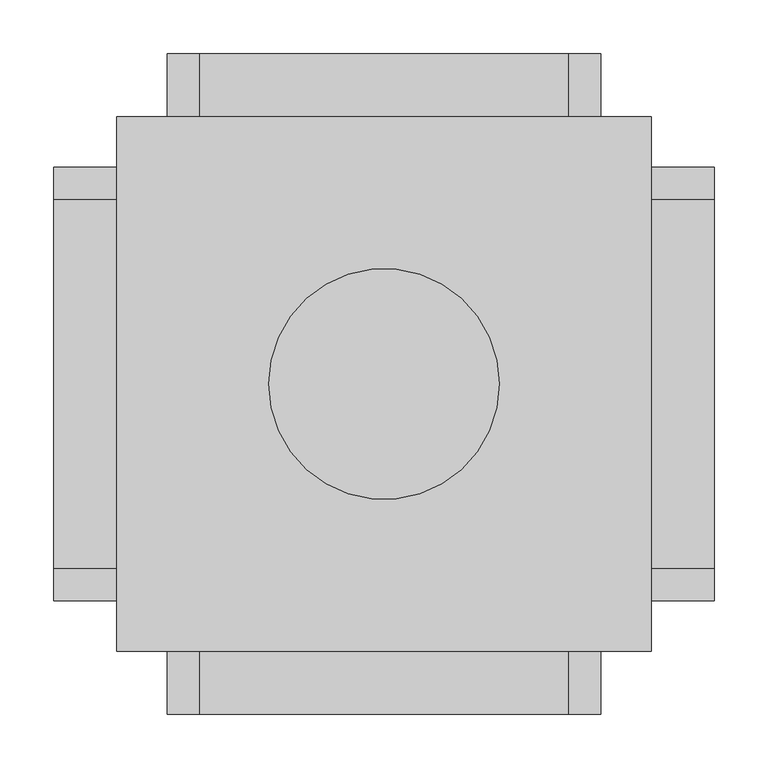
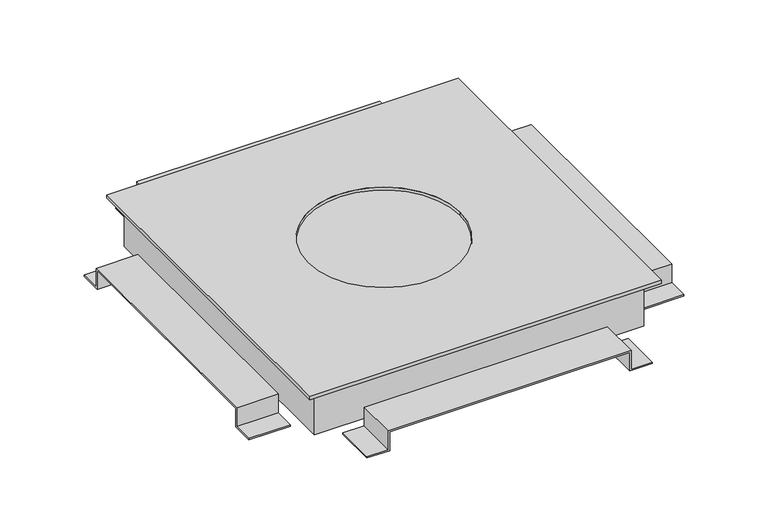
"""IFC4 building model written with IfcOpenShell, lengths in millimetres: cable carrier fitting geometry, Electrical-Installations_Hager_Universal-Junction-Box-With-Retaining-Tabs-Size-3 : Universal junction box with retaining tabs size 3."""

from ifc_helpers import new_model, si_unit, frame, origin, place, context, project, spatial, polyline, circle_curve, outline, extrude, faceted_brep, source, transform, mapped, element, save
from ifc_brep_helpers import plane_surface, revolved_surface, advanced_brep


def cable_carrier_fitting_3ffd2079(model_context):
    return source(origin(), model_context, "Body", "SolidModel", [
        extrude(outline(polyline([(-14.0, -202.0), (-14.0, -170.0), (14.0, -170.0), (14.0, 170.0), (-14.0, 170.0), (-14.0, 202.0), (-12.0, 202.0), (-12.0, 172.0), (16.0, 172.0), (16.0, -172.0), (-12.0, -172.0), (-12.0, -202.0), (-14.0, -202.0)])), frame((0.0, 249.0, 0.0), z_axis=(0.0, 1.0, 0.0), x_axis=(0.0, 0.0, 1.0)), (0.0, 0.0, 1.0), 59.0),
        extrude(outline(polyline([(-202.0, -14.0), (-202.0, -12.0), (-172.0, -12.0), (-172.0, 16.0), (172.0, 16.0), (172.0, -12.0), (202.0, -12.0), (202.0, -14.0), (170.0, -14.0), (170.0, 14.0), (-170.0, 14.0), (-170.0, -14.0), (-202.0, -14.0)])), frame((-308.0, 0.0, 0.0), z_axis=(1.0, 0.0, 0.0), x_axis=(0.0, 1.0, 0.0)), (0.0, 0.0, 1.0), 59.0),
        extrude(outline(polyline([(-14.0, -202.0), (-14.0, -170.0), (14.0, -170.0), (14.0, 170.0), (-14.0, 170.0), (-14.0, 202.0), (-12.0, 202.0), (-12.0, 172.0), (16.0, 172.0), (16.0, -172.0), (-12.0, -172.0), (-12.0, -202.0), (-14.0, -202.0)])), frame((0.0, -308.0, 0.0), z_axis=(0.0, 1.0, 0.0), x_axis=(0.0, 0.0, 1.0)), (0.0, 0.0, 1.0), 59.0),
        extrude(outline(polyline([(-202.0, -14.0), (-202.0, -12.0), (-172.0, -12.0), (-172.0, 16.0), (172.0, 16.0), (172.0, -12.0), (202.0, -12.0), (202.0, -14.0), (170.0, -14.0), (170.0, 14.0), (-170.0, 14.0), (-170.0, -14.0), (-202.0, -14.0)])), frame((249.0, 0.0, 0.0), z_axis=(1.0, 0.0, 0.0), x_axis=(0.0, 1.0, 0.0)), (0.0, 0.0, 1.0), 59.0),
        advanced_brep(
        [(-249.0, -249.0, 59.0), (249.0, -249.0, 59.0), (249.0, 249.0, 59.0), (-249.0, 249.0, 59.0), (-107.5, 0.0, 59.0), (107.5, 0.0, 59.0), (-249.0, -249.0, 54.0), (-249.0, 249.0, 54.0), (249.0, 249.0, 54.0), (249.0, -249.0, 54.0), (227.0, 227.0, 54.0), (-227.0, 227.0, 54.0), (-227.0, -227.0, 54.0), (227.0, -227.0, 54.0), (-107.5, 0.0, 54.7820613), (107.5, 0.0, 54.7820613), (227.0, 227.0, 54.7820613), (227.0, -227.0, 54.7820613), (-227.0, -227.0, 54.7820613), (-227.0, 227.0, 54.7820613)],
        [
            (0, 1),
            (1, 2),
            (2, 3),
            (3, 0),
            (4, 5, circle_curve(frame((0.0, 0.0, 59.0), z_axis=(0.0, 0.0, -1.0), x_axis=(1.0, 0.0, 0.0)), 107.5)),
            (5, 4, circle_curve(frame((0.0, 0.0, 59.0), z_axis=(0.0, 0.0, -1.0), x_axis=(1.0, 0.0, 0.0)), 107.5)),
            (6, 7),
            (7, 8),
            (8, 9),
            (9, 6),
            (10, 11),
            (11, 12),
            (12, 13),
            (13, 10),
            (0, 6),
            (9, 1),
            (8, 2),
            (7, 3),
            (4, 14),
            (14, 15, circle_curve(frame((0.0, 0.0, 54.7820613), z_axis=(0.0, 0.0, -1.0), x_axis=(1.0, 0.0, 0.0)), 107.5)),
            (15, 5),
            (15, 14, circle_curve(frame((0.0, 0.0, 54.7820613), z_axis=(0.0, 0.0, -1.0), x_axis=(1.0, 0.0, 0.0)), 107.5)),
            (16, 17),
            (17, 18),
            (18, 19),
            (19, 16),
            (19, 11),
            (10, 16),
            (18, 12),
            (17, 13),
        ],
        [
            plane_surface(frame((-249.0, -249.0, 59.0), z_axis=(0.0, 0.0, 1.0), x_axis=(1.0, 0.0, 0.0))),
            plane_surface(frame((-249.0, -249.0, 54.0), z_axis=(0.0, 0.0, -1.0), x_axis=(-1.0, 0.0, 0.0))),
            plane_surface(frame((-249.0, -249.0, 59.0), z_axis=(0.0, -1.0, 0.0), x_axis=(0.0, 0.0, -1.0))),
            plane_surface(frame((249.0, -249.0, 59.0), z_axis=(1.0, 0.0, 0.0), x_axis=(0.0, 0.0, -1.0))),
            plane_surface(frame((249.0, 249.0, 59.0), z_axis=(0.0, 1.0, 0.0), x_axis=(0.0, 0.0, -1.0))),
            plane_surface(frame((-249.0, 249.0, 59.0), z_axis=(-1.0, 0.0, 0.0), x_axis=(0.0, 0.0, -1.0))),
            revolved_surface(polyline([(107.5, 0.0, 54.7820613), (107.5, 0.0, 59.0)]), (0.0, 0.0, 0.0), (0.0, 0.0, -1.0)),
            plane_surface(frame((-227.0, 227.0, 54.7820613), z_axis=(0.0, 0.0, -1.0), x_axis=(-1.0, 0.0, 0.0))),
            plane_surface(frame((227.0, 227.0, 54.7820613), z_axis=(0.0, -1.0, 0.0), x_axis=(0.0, 0.0, -1.0))),
            plane_surface(frame((-227.0, 227.0, 54.7820613), z_axis=(1.0, 0.0, 0.0), x_axis=(0.0, 0.0, -1.0))),
            plane_surface(frame((-227.0, -227.0, 54.7820613), z_axis=(0.0, 1.0, 0.0), x_axis=(0.0, 0.0, -1.0))),
            plane_surface(frame((227.0, -227.0, 54.7820613), z_axis=(-1.0, 0.0, 0.0), x_axis=(0.0, 0.0, -1.0))),
        ],
        [
            (0, [[1, 2, 3, 4], [5, 6]]),
            (1, [[7, 8, 9, 10], [11, 12, 13, 14]]),
            (2, [[-1, 15, -10, 16]]),
            (3, [[-2, -16, -9, 17]]),
            (4, [[-3, -17, -8, 18]]),
            (5, [[-4, -18, -7, -15]]),
            (6, [[-5, 19, 20, 21]]),
            (6, [[-6, -21, 22, -19]]),
            (7, [[23, 24, 25, 26], [-20, -22]]),
            (8, [[-26, 27, -11, 28]]),
            (9, [[-25, 29, -12, -27]]),
            (10, [[-24, 30, -13, -29]]),
            (11, [[-23, -28, -14, -30]]),
        ],
    ),
        faceted_brep([(-233.0, 233.0, 54.0), (-233.0, -233.0, 54.0), (233.0, -233.0, 54.0), (233.0, 233.0, 54.0), (-227.0, 227.0, 54.0), (227.0, 227.0, 54.0), (227.0, -227.0, 54.0), (-227.0, -227.0, 54.0), (-233.0, 233.0, -14.0), (233.0, 233.0, -14.0), (233.0, -233.0, -14.0), (-233.0, -233.0, -14.0), (227.0, 227.0, -6.1362798), (-227.0, 227.0, -6.1362798), (-227.0, -227.0, -6.1362798), (227.0, -227.0, -6.1362798)], [[[0, 1, 2, 3], [4, 5, 6, 7]], [[8, 9, 10, 11]], [[1, 0, 8, 11]], [[2, 1, 11, 10]], [[3, 2, 10, 9]], [[0, 3, 9, 8]], [[12, 13, 14, 15]], [[13, 12, 5, 4]], [[14, 13, 4, 7]], [[15, 14, 7, 6]], [[12, 15, 6, 5]]]),
    ])


if __name__ == "__main__":
    model = new_model("IFC4")
    model_context = context("Model", 3, world=origin())
    ifc_project = project(units=[si_unit("LENGTHUNIT", "METRE", prefix="MILLI")], contexts=[model_context])
    site = spatial("IfcSite", under=ifc_project)
    building = spatial("IfcBuilding", under=site)
    placement = place(None, origin())
    cable_carrier_fitting_shape = cable_carrier_fitting_3ffd2079(model_context)
    element("IfcCableCarrierFitting", 1, ObjectType="Electrical-Installations_Hager_Universal-Junction-Box-With-Retaining-Tabs-Size-3 : Universal junction box with retaining tabs size 3", at=placement, inside=building, context=model_context, shape_type="MappedRepresentation", body=[
        mapped(cable_carrier_fitting_shape, transform((0.0, 0.0, 0.0), x_axis=(1.0, 0.0, 0.0), y_axis=(0.0, 1.0, 0.0), z_axis=(0.0, 0.0, 1.0))),
    ])
    save(model, "model.ifc")
